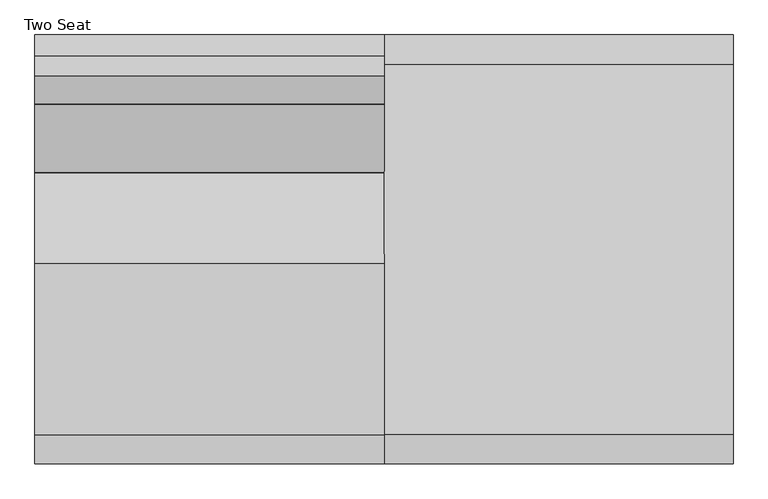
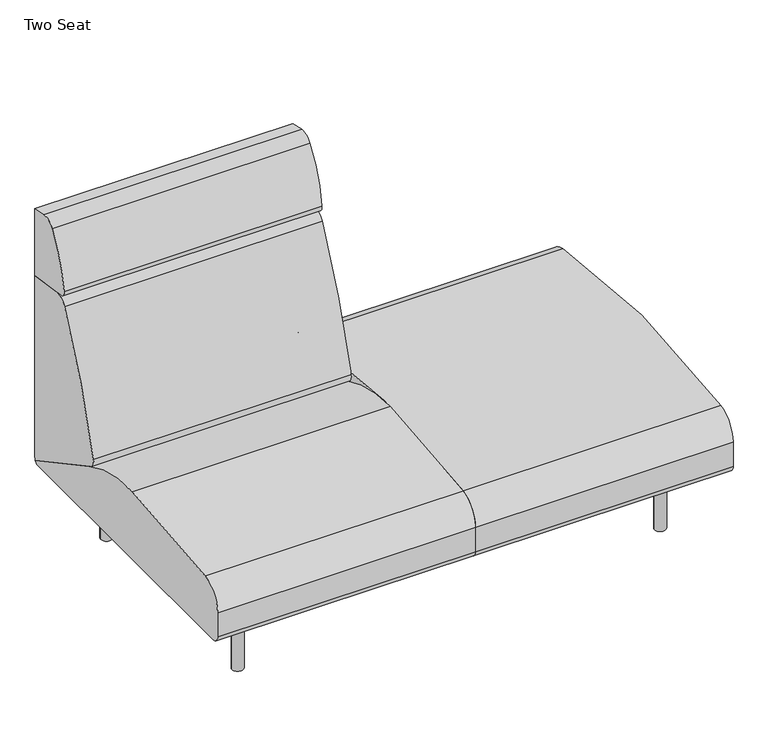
"""IFC4 building model written with IfcOpenShell, lengths in millimetres: furniture geometry, Coalesse_AM_Seating_LoungeChair_Sistema_LegBase_TwoSeat : Two Seat."""

from ifc_helpers import new_model, si_unit, point, frame, frame_2d, origin, origin_with_axes, place, context, project, spatial, polyline, circle_curve, trimmed, segment, composite_curve, outline, extrude, source, transform, mapped, element, save


def two_seat_87ee643b(model_context):
    return source(origin(), model_context, "Body", "SweptSolid", [
        extrude(outline(composite_curve([segment(trimmed(circle_curve(frame_2d((989.1765227, 335.9943389)), 6.096), [point((995.2725227, 335.9943389))], [point((983.0805227, 335.9943389))], False, "CARTESIAN"), True, "CONTINUOUS"), segment(trimmed(circle_curve(frame_2d((989.1765227, 335.9943389)), 6.096), [point((983.0805227, 335.9943389))], [point((995.2725227, 335.9943389))], False, "CARTESIAN"), True, "CONTINUOUS")], self_intersect=False)), origin_with_axes(), (0.0, 0.0, 1.0), 4.3662291),
        extrude(outline(composite_curve([segment(trimmed(circle_curve(frame_2d((989.1765227, -327.2630889)), 6.096), [point((995.2725227, -327.2630889))], [point((983.0805227, -327.2630889))], False, "CARTESIAN"), True, "CONTINUOUS"), segment(trimmed(circle_curve(frame_2d((989.1765227, -327.2630889)), 6.096), [point((983.0805227, -327.2630889))], [point((995.2725227, -327.2630889))], False, "CARTESIAN"), True, "CONTINUOUS")], self_intersect=False)), origin_with_axes(), (0.0, 0.0, 1.0), 4.3662291),
        extrude(outline(composite_curve([segment(polyline([(157.0399209, 1001.756375), (201.7356243, 1001.756375)]), True, "CONTINUOUS"), segment(trimmed(circle_curve(frame_2d((201.7356243, 998.708375)), 3.048), [point((201.7356243, 1001.756375))], [point((204.7836243, 998.708375))], False, "CARTESIAN"), True, "CONTINUOUS"), segment(polyline([(204.7836243, 998.708375), (204.7836243, 979.366199)]), True, "CONTINUOUS"), segment(trimmed(circle_curve(frame_2d((201.7356243, 979.366199)), 3.048), [point((204.7836243, 979.366199))], [point((201.7356243, 976.318199))], False, "CARTESIAN"), True, "CONTINUOUS"), segment(polyline([(201.7356243, 976.318199), (157.1249936, 976.318199)]), True, "CONTINUOUS"), segment(trimmed(circle_curve(frame_2d((157.1249936, 979.4512718)), 3.1330728), [point((157.1249936, 976.318199))], [point((153.9919209, 979.4512718))], False, "CARTESIAN"), True, "CONTINUOUS"), segment(polyline([(153.9919209, 979.4512718), (153.9919209, 998.708375)]), True, "CONTINUOUS"), segment(trimmed(circle_curve(frame_2d((157.0399209, 998.708375)), 3.048), [point((153.9919209, 998.708375))], [point((157.0399209, 1001.756375))], False, "CARTESIAN"), True, "CONTINUOUS")], self_intersect=False)), frame((0.0, 222.3519802, 0.0), z_axis=(0.0, 1.0, 0.0), x_axis=(0.0, 0.0, 1.0)), (0.0, 0.0, 1.0), 92.6273161),
        extrude(outline(composite_curve([segment(polyline([(157.0399209, 1001.756375), (201.7356243, 1001.756375)]), True, "CONTINUOUS"), segment(trimmed(circle_curve(frame_2d((201.7356243, 998.708375)), 3.048), [point((201.7356243, 1001.756375))], [point((204.7836243, 998.708375))], False, "CARTESIAN"), True, "CONTINUOUS"), segment(polyline([(204.7836243, 998.708375), (204.7836243, 979.366199)]), True, "CONTINUOUS"), segment(trimmed(circle_curve(frame_2d((201.7356243, 979.366199)), 3.048), [point((204.7836243, 979.366199))], [point((201.7356243, 976.318199))], False, "CARTESIAN"), True, "CONTINUOUS"), segment(polyline([(201.7356243, 976.318199), (157.1249936, 976.318199)]), True, "CONTINUOUS"), segment(trimmed(circle_curve(frame_2d((157.1249936, 979.4512718)), 3.1330728), [point((157.1249936, 976.318199))], [point((153.9919209, 979.4512718))], False, "CARTESIAN"), True, "CONTINUOUS"), segment(polyline([(153.9919209, 979.4512718), (153.9919209, 998.708375)]), True, "CONTINUOUS"), segment(trimmed(circle_curve(frame_2d((157.0399209, 998.708375)), 3.048), [point((153.9919209, 998.708375))], [point((157.0399209, 1001.756375))], False, "CARTESIAN"), True, "CONTINUOUS")], self_intersect=False)), frame((0.0, -314.9792963, 0.0), z_axis=(0.0, 1.0, 0.0), x_axis=(0.0, 0.0, 1.0)), (0.0, 0.0, 1.0), 92.6273161),
        extrude(outline(composite_curve([segment(trimmed(circle_curve(frame_2d((176.3356606, 966.5259944)), 3.048), [point((179.3836606, 966.5259944))], [point((176.3356606, 963.4779944))], False, "CARTESIAN"), True, "CONTINUOUS"), segment(polyline([(176.3356606, 963.4779944), (157.0399209, 963.4779944)]), True, "CONTINUOUS"), segment(trimmed(circle_curve(frame_2d((157.0399209, 966.5259944)), 3.048), [point((157.0399209, 963.4779944))], [point((153.9919209, 966.5259944))], False, "CARTESIAN"), True, "CONTINUOUS"), segment(polyline([(153.9919209, 966.5259944), (153.9919209, 1011.2135501)]), True, "CONTINUOUS"), segment(trimmed(circle_curve(frame_2d((157.056462, 1011.2135501)), 3.0645412), [point((153.9919209, 1011.2135501))], [point((157.056462, 1014.2780913))], False, "CARTESIAN"), True, "CONTINUOUS"), segment(polyline([(157.056462, 1014.2780913), (176.3356606, 1014.2780913)]), True, "CONTINUOUS"), segment(trimmed(circle_curve(frame_2d((176.3356606, 1011.2300913)), 3.048), [point((176.3356606, 1014.2780913))], [point((179.3836606, 1011.2300913))], False, "CARTESIAN"), True, "CONTINUOUS"), segment(polyline([(179.3836606, 1011.2300913), (179.3836606, 966.5259944)]), True, "CONTINUOUS")], self_intersect=False)), frame((0.0, -222.3519802, 0.0), z_axis=(0.0, 1.0, 0.0), x_axis=(0.0, 0.0, 1.0)), (0.0, 0.0, 1.0), 444.7039604),
        extrude(outline(composite_curve([segment(trimmed(circle_curve(frame_2d((989.1765227, 332.3095741)), 16.51), [point((1005.6865227, 332.3095741))], [point((972.6665227, 332.3095741))], False, "CARTESIAN"), True, "CONTINUOUS"), segment(trimmed(circle_curve(frame_2d((989.1765227, 332.3095741)), 16.51), [point((972.6665227, 332.3095741))], [point((1005.6865227, 332.3095741))], False, "CARTESIAN"), True, "CONTINUOUS")], self_intersect=False)), frame((0.0, 0.0, 4.3662291), z_axis=(0.0, 0.0, 1.0), x_axis=(1.0, 0.0, 0.0)), (0.0, 0.0, 1.0), 200.1037709),
        extrude(outline(composite_curve([segment(trimmed(circle_curve(frame_2d((988.7796477, -327.5470741)), 16.51), [point((1005.2896477, -327.5470741))], [point((972.2696477, -327.5470741))], False, "CARTESIAN"), True, "CONTINUOUS"), segment(trimmed(circle_curve(frame_2d((988.7796477, -327.5470741)), 16.51), [point((972.2696477, -327.5470741))], [point((1005.2896477, -327.5470741))], False, "CARTESIAN"), True, "CONTINUOUS")], self_intersect=False)), frame((0.0, 0.0, 4.3662291), z_axis=(0.0, 0.0, 1.0), x_axis=(1.0, 0.0, 0.0)), (0.0, 0.0, 1.0), 200.1037709),
        extrude(outline(composite_curve([segment(polyline([(459.4795619, 985.4592709), (459.4795619, 780.845009), (327.9700683, 799.327463)]), True, "CONTINUOUS"), segment(trimmed(circle_curve(frame_2d((330.6213159, 818.1920697)), 19.05), [point((327.9700683, 799.327463))], [point((311.7521971, 820.8110119))], False, "CARTESIAN"), True, "CONTINUOUS"), segment(trimmed(circle_curve(frame_2d((679.5815991, 769.7580741)), 371.3554516), [point((311.7521971, 820.8110119))], [point((372.1246101, 978.0249014))], False, "CARTESIAN"), True, "CONTINUOUS"), segment(trimmed(circle_curve(frame_2d((405.8944569, 955.1497055)), 40.7881985), [point((372.1246101, 978.0249014))], [point((414.3748002, 995.046584))], False, "CARTESIAN"), True, "CONTINUOUS"), segment(polyline([(414.3748002, 995.046584), (459.4795619, 985.4592709)]), True, "CONTINUOUS")], self_intersect=False)), frame((-374.8034773, 0.0, 0.0), z_axis=(1.0, 0.0, 0.0), x_axis=(0.0, 1.0, 0.0)), (0.0, 0.0, 1.0), 749.3),
        extrude(outline(composite_curve([segment(polyline([(459.4795619, 780.845009), (459.4795619, 228.1929806)]), True, "CONTINUOUS"), segment(trimmed(circle_curve(frame_2d((191.495971, 228.1929806)), 267.983591), [point((459.4795619, 228.1929806))], [point((458.9860775, 211.937276))], False, "CARTESIAN"), True, "CONTINUOUS"), segment(polyline([(458.9860775, 211.937276), (177.4990556, 364.1028799)]), True, "CONTINUOUS"), segment(trimmed(circle_curve(frame_2d((189.5778307, 386.4470781)), 25.4), [point((177.4990556, 364.1028799))], [point((164.9600055, 392.7018911))], False, "CARTESIAN"), True, "CONTINUOUS"), segment(trimmed(circle_curve(frame_2d((1918.112812, -52.7331923)), 1808.8552115), [point((164.9600055, 392.7018911))], [point((310.2880264, 776.0349508))], False, "CARTESIAN"), True, "CONTINUOUS"), segment(trimmed(circle_curve(frame_2d((344.1537133, 758.5785695)), 38.1), [point((310.2880264, 776.0349508))], [point((349.4562085, 796.3077829))], False, "CARTESIAN"), True, "CONTINUOUS"), segment(polyline([(349.4562085, 796.3077829), (459.4795619, 780.845009)]), True, "CONTINUOUS")], self_intersect=False)), frame((-374.8034773, 0.0, 0.0), z_axis=(1.0, 0.0, 0.0), x_axis=(0.0, 1.0, 0.0)), (0.0, 0.0, 1.0), 749.3),
        extrude(outline(composite_curve([segment(trimmed(circle_curve(frame_2d((-438.9184381, 226.822)), 22.352), [point((-438.9184381, 204.47))], [point((-461.2704381, 226.822))], False, "CARTESIAN"), True, "CONTINUOUS"), segment(polyline([(-461.2704381, 226.822), (-461.2704381, 301.4421993)]), True, "CONTINUOUS"), segment(trimmed(circle_curve(frame_2d((-385.0704381, 301.4421993)), 76.2), [point((-461.2704381, 301.4421993))], [point((-398.9277015, 376.3716077))], False, "CARTESIAN"), True, "CONTINUOUS"), segment(trimmed(circle_curve(frame_2d((2.2103559, -1792.6740646)), 2205.8265729), [point((-398.9277015, 376.3716077))], [point((-31.1968175, 412.8995185))], False, "CARTESIAN"), True, "CONTINUOUS"), segment(trimmed(circle_curve(frame_2d((-24.5128424, -28.3829182)), 441.333054), [point((-31.1968175, 412.8995185))], [point((184.5757008, 360.2774035))], False, "CARTESIAN"), True, "CONTINUOUS"), segment(polyline([(184.5757008, 360.2774035), (458.9860775, 211.937276)]), True, "CONTINUOUS"), segment(trimmed(circle_curve(frame_2d((442.3266309, 226.7871991)), 22.3171991), [point((458.9860775, 211.937276))], [point((442.3266309, 204.47))], False, "CARTESIAN"), True, "CONTINUOUS"), segment(polyline([(442.3266309, 204.47), (-438.9184381, 204.47)]), True, "CONTINUOUS")], self_intersect=False)), frame((-374.8034773, 0.0, 0.0), z_axis=(1.0, 0.0, 0.0), x_axis=(0.0, 1.0, 0.0)), (0.0, 0.0, 1.0), 749.3),
        extrude(outline(composite_curve([segment(trimmed(circle_curve(frame_2d((-438.9184381, 226.822)), 22.352), [point((-438.9184381, 204.47))], [point((-461.2704381, 226.822))], False, "CARTESIAN"), True, "CONTINUOUS"), segment(polyline([(-461.2704381, 226.822), (-461.2704381, 301.4421993)]), True, "CONTINUOUS"), segment(trimmed(circle_curve(frame_2d((-385.0704381, 301.4421993)), 76.2), [point((-461.2704381, 301.4421993))], [point((-398.9279534, 376.3715612))], False, "CARTESIAN"), True, "CONTINUOUS"), segment(trimmed(circle_curve(frame_2d((-0.3717831, -1778.6727457)), 2191.5891461), [point((-398.9279534, 376.3715612))], [point((397.0993513, 376.5719464))], False, "CARTESIAN"), True, "CONTINUOUS"), segment(trimmed(circle_curve(frame_2d((383.2795619, 301.6356173)), 76.2), [point((397.0993513, 376.5719464))], [point((459.4795619, 301.6356173))], False, "CARTESIAN"), True, "CONTINUOUS"), segment(polyline([(459.4795619, 301.6356173), (459.4795619, 226.7871991)]), True, "CONTINUOUS"), segment(trimmed(circle_curve(frame_2d((437.1623628, 226.7871991)), 22.3171991), [point((459.4795619, 226.7871991))], [point((437.1623628, 204.47))], False, "CARTESIAN"), True, "CONTINUOUS"), segment(polyline([(437.1623628, 204.47), (-438.9184381, 204.47)]), True, "CONTINUOUS")], self_intersect=False)), frame((374.4965227, 0.0, 0.0), z_axis=(1.0, 0.0, 0.0), x_axis=(0.0, 1.0, 0.0)), (0.0, 0.0, 1.0), 749.3),
        extrude(outline(composite_curve([segment(trimmed(circle_curve(frame_2d((-240.1834773, 335.9943389)), 6.096), [point((-246.2794773, 335.9943389))], [point((-234.0874773, 335.9943389))], False, "CARTESIAN"), True, "CONTINUOUS"), segment(trimmed(circle_curve(frame_2d((-240.1834773, 335.9943389)), 6.096), [point((-234.0874773, 335.9943389))], [point((-246.2794773, 335.9943389))], False, "CARTESIAN"), True, "CONTINUOUS")], self_intersect=False)), origin_with_axes(), (0.0, 0.0, 1.0), 4.3662291),
        extrude(outline(composite_curve([segment(trimmed(circle_curve(frame_2d((-240.1834773, -327.2630889)), 6.096), [point((-246.2794773, -327.2630889))], [point((-234.0874773, -327.2630889))], False, "CARTESIAN"), True, "CONTINUOUS"), segment(trimmed(circle_curve(frame_2d((-240.1834773, -327.2630889)), 6.096), [point((-234.0874773, -327.2630889))], [point((-246.2794773, -327.2630889))], False, "CARTESIAN"), True, "CONTINUOUS")], self_intersect=False)), origin_with_axes(), (0.0, 0.0, 1.0), 4.3662291),
        extrude(outline(composite_curve([segment(trimmed(circle_curve(frame_2d((157.0399209, -249.7153296)), 3.048), [point((157.0399209, -252.7633296))], [point((153.9919209, -249.7153296))], False, "CARTESIAN"), True, "CONTINUOUS"), segment(polyline([(153.9919209, -249.7153296), (153.9919209, -230.4582264)]), True, "CONTINUOUS"), segment(trimmed(circle_curve(frame_2d((157.1249936, -230.4582264)), 3.1330728), [point((153.9919209, -230.4582264))], [point((157.1249936, -227.3251537))], False, "CARTESIAN"), True, "CONTINUOUS"), segment(polyline([(157.1249936, -227.3251537), (201.7356243, -227.3251537)]), True, "CONTINUOUS"), segment(trimmed(circle_curve(frame_2d((201.7356243, -230.3731537)), 3.048), [point((201.7356243, -227.3251537))], [point((204.7836243, -230.3731537))], False, "CARTESIAN"), True, "CONTINUOUS"), segment(polyline([(204.7836243, -230.3731537), (204.7836243, -249.7153296)]), True, "CONTINUOUS"), segment(trimmed(circle_curve(frame_2d((201.7356243, -249.7153296)), 3.048), [point((204.7836243, -249.7153296))], [point((201.7356243, -252.7633296))], False, "CARTESIAN"), True, "CONTINUOUS"), segment(polyline([(201.7356243, -252.7633296), (157.0399209, -252.7633296)]), True, "CONTINUOUS")], self_intersect=False)), frame((0.0, 222.3519802, 0.0), z_axis=(0.0, 1.0, 0.0), x_axis=(0.0, 0.0, 1.0)), (0.0, 0.0, 1.0), 92.6273161),
        extrude(outline(composite_curve([segment(trimmed(circle_curve(frame_2d((157.0399209, -249.7153296)), 3.048), [point((157.0399209, -252.7633296))], [point((153.9919209, -249.7153296))], False, "CARTESIAN"), True, "CONTINUOUS"), segment(polyline([(153.9919209, -249.7153296), (153.9919209, -230.4582264)]), True, "CONTINUOUS"), segment(trimmed(circle_curve(frame_2d((157.1249936, -230.4582264)), 3.1330728), [point((153.9919209, -230.4582264))], [point((157.1249936, -227.3251537))], False, "CARTESIAN"), True, "CONTINUOUS"), segment(polyline([(157.1249936, -227.3251537), (201.7356243, -227.3251537)]), True, "CONTINUOUS"), segment(trimmed(circle_curve(frame_2d((201.7356243, -230.3731537)), 3.048), [point((201.7356243, -227.3251537))], [point((204.7836243, -230.3731537))], False, "CARTESIAN"), True, "CONTINUOUS"), segment(polyline([(204.7836243, -230.3731537), (204.7836243, -249.7153296)]), True, "CONTINUOUS"), segment(trimmed(circle_curve(frame_2d((201.7356243, -249.7153296)), 3.048), [point((204.7836243, -249.7153296))], [point((201.7356243, -252.7633296))], False, "CARTESIAN"), True, "CONTINUOUS"), segment(polyline([(201.7356243, -252.7633296), (157.0399209, -252.7633296)]), True, "CONTINUOUS")], self_intersect=False)), frame((0.0, -314.9792963, 0.0), z_axis=(0.0, 1.0, 0.0), x_axis=(0.0, 0.0, 1.0)), (0.0, 0.0, 1.0), 92.6273161),
        extrude(outline(composite_curve([segment(polyline([(179.3836606, -217.532949), (179.3836606, -262.2370459)]), True, "CONTINUOUS"), segment(trimmed(circle_curve(frame_2d((176.3356606, -262.2370459)), 3.048), [point((179.3836606, -262.2370459))], [point((176.3356606, -265.2850459))], False, "CARTESIAN"), True, "CONTINUOUS"), segment(polyline([(176.3356606, -265.2850459), (157.056462, -265.2850459)]), True, "CONTINUOUS"), segment(trimmed(circle_curve(frame_2d((157.056462, -262.2205047)), 3.0645412), [point((157.056462, -265.2850459))], [point((153.9919209, -262.2205047))], False, "CARTESIAN"), True, "CONTINUOUS"), segment(polyline([(153.9919209, -262.2205047), (153.9919209, -217.532949)]), True, "CONTINUOUS"), segment(trimmed(circle_curve(frame_2d((157.0399209, -217.532949)), 3.048), [point((153.9919209, -217.532949))], [point((157.0399209, -214.484949))], False, "CARTESIAN"), True, "CONTINUOUS"), segment(polyline([(157.0399209, -214.484949), (176.3356606, -214.484949)]), True, "CONTINUOUS"), segment(trimmed(circle_curve(frame_2d((176.3356606, -217.532949)), 3.048), [point((176.3356606, -214.484949))], [point((179.3836606, -217.532949))], False, "CARTESIAN"), True, "CONTINUOUS")], self_intersect=False)), frame((0.0, -222.3519802, 0.0), z_axis=(0.0, 1.0, 0.0), x_axis=(0.0, 0.0, 1.0)), (0.0, 0.0, 1.0), 444.7039604),
        extrude(outline(composite_curve([segment(trimmed(circle_curve(frame_2d((-240.1834773, 332.3095741)), 16.51), [point((-256.6934773, 332.3095741))], [point((-223.6734773, 332.3095741))], False, "CARTESIAN"), True, "CONTINUOUS"), segment(trimmed(circle_curve(frame_2d((-240.1834773, 332.3095741)), 16.51), [point((-223.6734773, 332.3095741))], [point((-256.6934773, 332.3095741))], False, "CARTESIAN"), True, "CONTINUOUS")], self_intersect=False)), frame((0.0, 0.0, 4.3662291), z_axis=(0.0, 0.0, 1.0), x_axis=(1.0, 0.0, 0.0)), (0.0, 0.0, 1.0), 200.1037709),
        extrude(outline(composite_curve([segment(trimmed(circle_curve(frame_2d((-239.7866023, -327.5470741)), 16.51), [point((-256.2966023, -327.5470741))], [point((-223.2766023, -327.5470741))], False, "CARTESIAN"), True, "CONTINUOUS"), segment(trimmed(circle_curve(frame_2d((-239.7866023, -327.5470741)), 16.51), [point((-223.2766023, -327.5470741))], [point((-256.2966023, -327.5470741))], False, "CARTESIAN"), True, "CONTINUOUS")], self_intersect=False)), frame((0.0, 0.0, 4.3662291), z_axis=(0.0, 0.0, 1.0), x_axis=(1.0, 0.0, 0.0)), (0.0, 0.0, 1.0), 200.1037709),
    ])


if __name__ == "__main__":
    model = new_model("IFC4")
    model_context = context("Model", 3, world=origin())
    ifc_project = project(units=[si_unit("LENGTHUNIT", "METRE", prefix="MILLI")], contexts=[model_context])
    site = spatial("IfcSite", under=ifc_project)
    building = spatial("IfcBuilding", under=site)
    placement = place(None, origin())
    two_seat_shape = two_seat_87ee643b(model_context)
    element("IfcFurniture", 1, ObjectType="Coalesse_AM_Seating_LoungeChair_Sistema_LegBase_TwoSeat : Two Seat", at=placement, inside=building, context=model_context, shape_type="MappedRepresentation", body=[
        mapped(two_seat_shape, transform((0.0, 0.0, 0.0), x_axis=(1.0, 0.0, 0.0), y_axis=(0.0, 1.0, 0.0), z_axis=(0.0, 0.0, 1.0))),
    ])
    save(model, "model.ifc")
